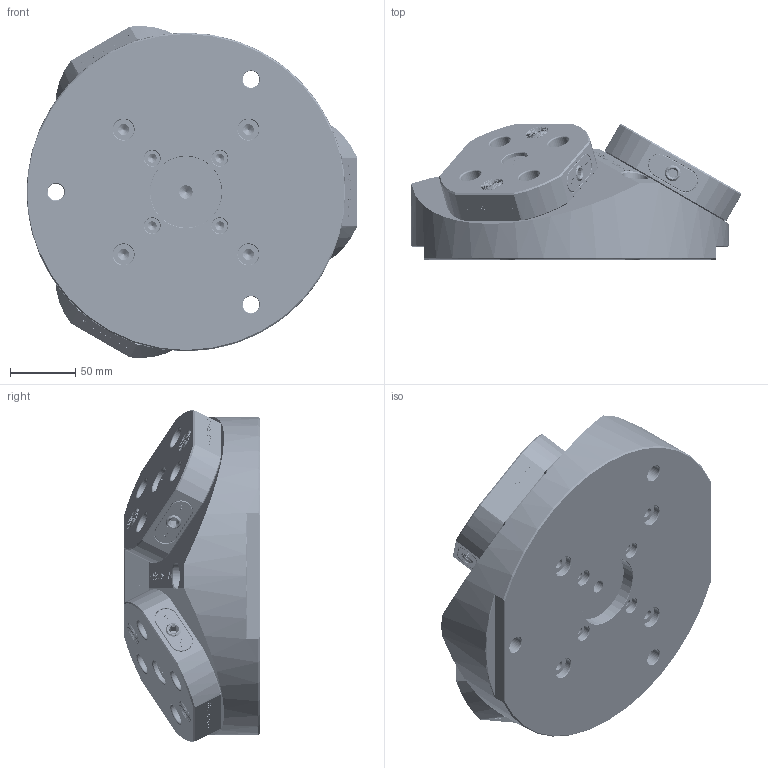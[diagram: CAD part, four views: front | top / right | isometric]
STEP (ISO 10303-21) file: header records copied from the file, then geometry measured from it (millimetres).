
FILE_DESCRIPTION((''),'2;1');
FILE_NAME('TS52-3PY_D245_ASM','2025-06-06T09:02:49',('XF'),(''),'CREO PARAMETRIC BY PTC INC, 2023073','CREO PARAMETRIC BY PTC INC, 2023073','');
FILE_SCHEMA(('CONFIG_CONTROL_DESIGN'));
Products named in the file (7): TS52-3PY; TS52-120_SS_1_1; TS52-120_SS_1_2; TS52-120_SS_1_3; TS52-120_SS_1_ASM; TS52-120_ASM; TS52-3PY_D245_ASM
Assembly tree (8 placements, depth 4):
  TS52-3PY_D245_ASM
    TS52-3PY
    TS52-120_ASM  x3
      TS52-120_SS_1_ASM
        TS52-120_SS_1_1
        TS52-120_SS_1_2
        TS52-120_SS_1_3
Bounding box: 254.27 x 104.15 x 255.35 mm (x, y, z)
Volume: 3351801.9 mm3; surface area: 276035.7 mm2
Topology: 10 solids, 10 shells, 8777 faces, 22933 edges, 15083 vertices
Faces by surface type: plane 4070, extrusion 2013, cone 1978, cylinder 584, torus 72, bspline 60
Entity records: 120417 total; most frequent: CARTESIAN_POINT 33231, ORIENTED_EDGE 19086, DIRECTION 15267, EDGE_CURVE 9543, VECTOR 6631, VERTEX_POINT 6289, LINE 5618, AXIS2_PLACEMENT_3D 4318
